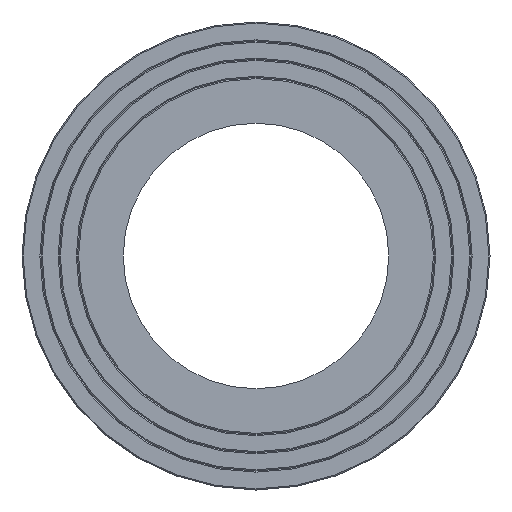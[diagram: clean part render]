
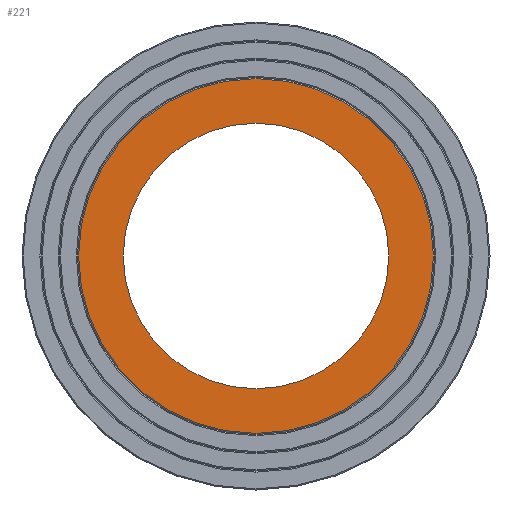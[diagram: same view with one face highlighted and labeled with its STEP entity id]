
A CAD part, left-side view. The second image highlights one B-rep face of the part: STEP entity #221.
In plain terms, the highlighted planar face has unit normal (-1, 0, 0).
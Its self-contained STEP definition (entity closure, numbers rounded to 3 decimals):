
#36=ORIENTED_EDGE('',*,*,#76,.F.);
#37=ORIENTED_EDGE('',*,*,#77,.T.);
#76=EDGE_CURVE('',#96,#96,#116,.T.);
#77=EDGE_CURVE('',#97,#97,#117,.T.);
#96=VERTEX_POINT('',#383);
#97=VERTEX_POINT('',#385);
#116=CIRCLE('',#257,174.7);
#117=CIRCLE('',#258,233.5);
#136=EDGE_LOOP('',(#36));
#137=EDGE_LOOP('',(#37));
#176=FACE_BOUND('',#136,.T.);
#177=FACE_BOUND('',#137,.T.);
#215=PLANE('',#256);
#221=ADVANCED_FACE('',(#176,#177),#215,.F.);
#256=AXIS2_PLACEMENT_3D('',#381,#301,#302);
#257=AXIS2_PLACEMENT_3D('',#382,#303,#304);
#258=AXIS2_PLACEMENT_3D('',#384,#305,#306);
#301=DIRECTION('',(1.,0.,0.));
#302=DIRECTION('',(0.,0.,-1.));
#303=DIRECTION('',(-1.,0.,0.));
#304=DIRECTION('',(0.,0.,1.));
#305=DIRECTION('',(-1.,0.,0.));
#306=DIRECTION('',(0.,0.,1.));
#381=CARTESIAN_POINT('',(0.,0.,308.));
#382=CARTESIAN_POINT('',(0.,0.,0.));
#383=CARTESIAN_POINT('',(0.,0.,174.7));
#384=CARTESIAN_POINT('',(0.,0.,0.));
#385=CARTESIAN_POINT('',(0.,0.,233.5));
